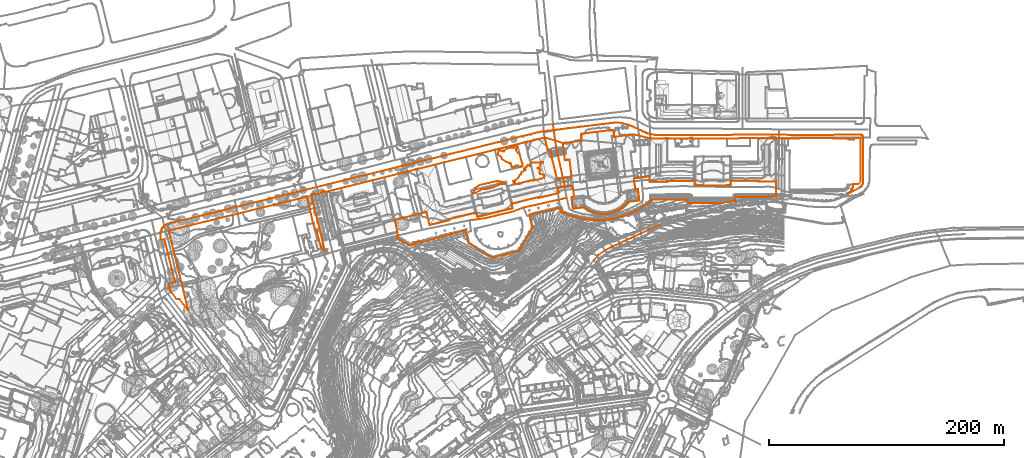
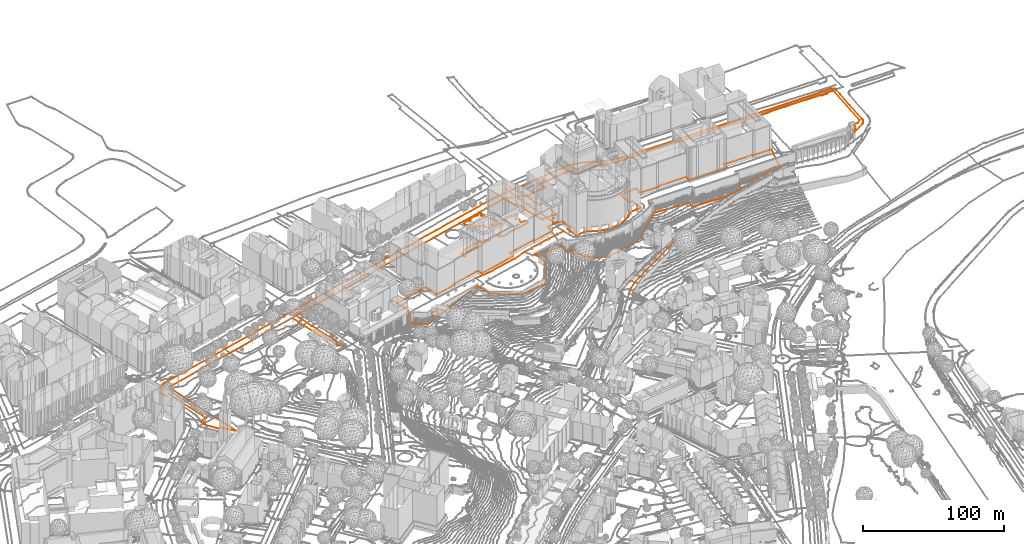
# Not in any storey, part 190 of 477: 7 civil elements, 3 geographic elements.
"""IFC4 model written with IfcOpenShell, lengths in metres."""

import ifcopenshell
import ifcopenshell.guid

model = None  # the IFC model being written
_history = None  # IfcOwnerHistory: only IFC2X3 demands one
_inside = {}  # id of a spatial element -> (the spatial element, [elements in it])
_under = {}  # id of a project, library or spatial element -> (it, [spatial elements below it])
_declared = {}  # id of a project -> (the project, [libraries it declares])
_typed = {}  # id of a type object -> (the type object, [elements of that type])
_made_of = {}  # id of a material, layer set ... -> (it, [elements and type objects made of it])


def new_model(schema):
    """Start an empty IFC model of exactly this schema.

    Asked for "IFC4X3", IfcOpenShell would pick the latest addendum, in which some entities
    have other attributes; the version numbers below select the first issue.
    IFC2X3 requires an IfcOwnerHistory on every rooted entity: one is made here for all.
    """
    global model, _history
    if schema == "IFC4X3":
        model = ifcopenshell.file(schema_version=(4, 3, 0, 0))
    else:
        model = ifcopenshell.file(schema=schema)
    _inside.clear()
    _under.clear()
    _declared.clear()
    _typed.clear()
    _made_of.clear()
    _history = None
    if model.schema == "IFC2X3":
        org = make("IfcOrganization", Name="unknown")
        user = make(
            "IfcPersonAndOrganization",
            ThePerson=make("IfcPerson", FamilyName="unknown"),
            TheOrganization=org,
        )
        app = make(
            "IfcApplication",
            ApplicationDeveloper=org,
            Version="unknown",
            ApplicationFullName="unknown",
            ApplicationIdentifier="unknown",
        )
        _history = make(
            "IfcOwnerHistory",
            OwningUser=user,
            OwningApplication=app,
            ChangeAction="ADDED",
            CreationDate=0,
        )
    return model


def make(cls, **values):
    """One entity of the class cls with the attributes given. An attribute that is None is left unset."""
    return model.create_entity(
        cls, **{name: value for name, value in values.items() if value is not None}
    )


def entity(cls, *values):
    """Any entity or typed value of the class cls, its attributes in the order of the schema. None: left unset."""
    e = model.create_entity(cls)
    for i, value in enumerate(values):
        if value is not None:
            e[i] = value
    return e


def rooted(cls, **values):
    """An entity with a GlobalId (a new one), such as an element, a storey or a relation."""
    return make(cls, GlobalId=ifcopenshell.guid.new(), OwnerHistory=_history, **values)


def si_unit(unit_type, name, prefix=None):
    """IfcSIUnit, for example si_unit("LENGTHUNIT", "METRE", prefix="MILLI")."""
    return make("IfcSIUnit", UnitType=unit_type, Prefix=prefix, Name=name)


def assignment(units):
    """IfcUnitAssignment: the units of a project."""
    return None if units is None else make("IfcUnitAssignment", Units=units)


def point(xyz):
    """IfcCartesianPoint."""
    return None if xyz is None else make("IfcCartesianPoint", Coordinates=xyz)


def direction(xyz):
    """IfcDirection."""
    return None if xyz is None else make("IfcDirection", DirectionRatios=xyz)


def frame(location, z_axis=None, x_axis=None):
    """IfcAxis2Placement3D, a coordinate frame: its origin and axes. An axis left out is left unset."""
    return make(
        "IfcAxis2Placement3D",
        Location=point(location),
        Axis=direction(z_axis),
        RefDirection=direction(x_axis),
    )


def origin_with_axes():
    """The frame at (0, 0, 0) with the z axis (0, 0, 1) and the x axis (1, 0, 0) written out."""
    return frame((0.0, 0.0, 0.0), z_axis=(0.0, 0.0, 1.0), x_axis=(1.0, 0.0, 0.0))


def place(relative_to, where):
    """IfcLocalPlacement: puts the frame where relative to a parent placement (None: the world)."""
    return make(
        "IfcLocalPlacement", PlacementRelTo=relative_to, RelativePlacement=where
    )


def context(
    kind, dimensions, precision=None, world=None, true_north=None, identifier=None
):
    """IfcGeometricRepresentationContext, for example the 3D "Model" context."""
    return make(
        "IfcGeometricRepresentationContext",
        ContextIdentifier=identifier,
        ContextType=kind,
        CoordinateSpaceDimension=dimensions,
        Precision=precision,
        WorldCoordinateSystem=world,
        TrueNorth=true_north,
    )


def subcontext(parent, identifier, kind, view, scale=None):
    """IfcGeometricRepresentationSubContext, for example "Body" below "Model"."""
    return make(
        "IfcGeometricRepresentationSubContext",
        ContextIdentifier=identifier,
        ContextType=kind,
        ParentContext=parent,
        TargetScale=scale,
        TargetView=view,
    )


def project(units=None, contexts=None):
    """IfcProject with its units and contexts."""
    return rooted(
        "IfcProject",
        Name="project",
        RepresentationContexts=contexts,
        UnitsInContext=assignment(units),
    )


def spatial(cls, under=None, at=None, **own):
    """A site, building, storey or space (cls), placed at a placement, below another one or the project."""
    s = rooted(cls, ObjectPlacement=at, **own)
    if under is not None:
        _under.setdefault(under.id(), (under, []))[1].append(s)
    return s


def shape(context_of_items, identifier, shape_type, items):
    """IfcShapeRepresentation: the items that make up one representation, for example the "Body"."""
    return make(
        "IfcShapeRepresentation",
        ContextOfItems=context_of_items,
        RepresentationIdentifier=identifier,
        RepresentationType=shape_type,
        Items=items,
    )


def made_of(thing, what):
    """Note that an element or type object is made of a material, layer set ...; save() writes the relation."""
    if what is not None:
        _made_of.setdefault(what.id(), (what, []))[1].append(thing)
    return thing


def element(
    cls,
    number,
    at=None,
    inside=None,
    cuts=None,
    type_object=None,
    material=None,
    context=None,
    identifier="Body",
    shape_type=None,
    held_by="IfcProductDefinitionShape",
    body=None,
    shapes=None,
    **own,
):
    """One element of the class cls, such as IfcWall. Its Tag is "e" and its number.

    at: its placement. inside: the storey or other place that contains it. cuts: it is an
    opening in that element (IfcRelVoidsElement). A single representation is given by context,
    identifier, shape_type and body (its items); several are given by shapes. held_by: the class
    of the entity that holds the representations. save() writes the other relations.
    """
    e = rooted(cls, Tag="e%d" % number, ObjectPlacement=at, **own)
    if body is not None:
        shapes = [shape(context, identifier, shape_type, body)]
    if shapes is not None:
        e.Representation = make(held_by, Representations=shapes)
    if inside is not None:
        _inside.setdefault(inside.id(), (inside, []))[1].append(e)
    if cuts is not None:
        rooted(
            "IfcRelVoidsElement", RelatingBuildingElement=cuts, RelatedOpeningElement=e
        )
    if type_object is not None:
        _typed.setdefault(type_object.id(), (type_object, []))[1].append(e)
    return made_of(e, material)


def aggregate(whole, parts):
    """IfcRelAggregates: a whole, such as a stair, and the parts it consists of."""
    return rooted("IfcRelAggregates", RelatingObject=whole, RelatedObjects=parts)


def save(model, path):
    """Write the relations noted so far, then the file.

    IfcRelAggregates (storeys below a building ...), IfcRelContainedInSpatialStructure (elements
    in a storey), IfcRelDefinesByType, IfcRelAssociatesMaterial and IfcRelDeclares: one each for
    every whole, place, type object, material and project.
    """
    for whole, parts in _under.values():
        aggregate(whole, parts)
    for where, things in _inside.values():
        rooted(
            "IfcRelContainedInSpatialStructure",
            RelatedElements=things,
            RelatingStructure=where,
        )
    for kind, things in _typed.values():
        rooted("IfcRelDefinesByType", RelatedObjects=things, RelatingType=kind)
    for what, things in _made_of.values():
        rooted("IfcRelAssociatesMaterial", RelatedObjects=things, RelatingMaterial=what)
    for by, libraries in _declared.values():
        rooted("IfcRelDeclares", RelatingContext=by, RelatedDefinitions=libraries)
    model.write(path)


model = new_model("IFC4")

# Units and contexts
model_context = context("Model", 3, precision=1e-05, world=origin_with_axes())
body_context = subcontext(model_context, "Body", "Model", "MODEL_VIEW")
ifc_project = project(units=[si_unit("AREAUNIT", "SQUARE_METRE"), si_unit("LENGTHUNIT", "METRE")], contexts=[model_context])

# Sites
site_1_placement = place(None, origin_with_axes())
site_1 = spatial("IfcSite", under=ifc_project, at=site_1_placement, Name="Topoexport Site")
site_2_placement = place(site_1_placement, origin_with_axes())
site_2 = spatial("IfcSite", under=site_1, at=site_2_placement, Name="TPX_ROADS")

# Civil elements
civil_element_1_placement = place(site_2_placement, frame((420.2107320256, 339.755732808, 539.338), z_axis=(0.0, 0.0, 1.0), x_axis=(1.0, 0.0, 0.0)))
element("IfcCivilElement", 1, at=civil_element_1_placement, inside=site_2, Name="Road 18", ObjectType="ROAD", context=body_context, shape_type="GeometricCurveSet", body=[
    entity("IfcGeometricCurveSet", [entity("IfcIndexedPolyCurve", entity("IfcCartesianPointList3D", [[0.0, 0.0, 0.0], [12.1909999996, 1.639999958, -0.145], [25.2870000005, 4.6979998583, -0.145], [36.4580000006, 7.359999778, -0.145], [45.9919999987, 10.9009996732, -0.145]]))]),
])
civil_element_2_placement = place(site_2_placement, frame((526.0887320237, 306.1137338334, 509.564), z_axis=(0.0, 0.0, 1.0), x_axis=(1.0, 0.0, 0.0)))
element("IfcCivilElement", 2, at=civil_element_2_placement, inside=site_2, Name="Road 169", ObjectType="ROAD", context=body_context, shape_type="GeometricCurveSet", body=[
    entity("IfcGeometricCurveSet", [entity("IfcIndexedPolyCurve", entity("IfcCartesianPointList3D", [[0.0, 0.0, 0.0], [3.7430000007, 4.0479998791, 0.464], [9.2790000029, 7.9819997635, 1.274], [14.5380000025, 10.8659996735, 2.052], [31.7190000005, 18.6479994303, 4.864], [48.018000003, 26.2849992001, 7.601], [55.3600000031, 29.9549990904, 8.53]]))]),
])
civil_element_3_placement = place(site_2_placement, frame((491.2227320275, 421.6907303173, 542.441), z_axis=(0.0, 0.0, 1.0), x_axis=(1.0, 0.0, 0.0)))
element("IfcCivilElement", 3, at=civil_element_3_placement, inside=site_2, Name="Road 195", ObjectType="ROAD", context=body_context, shape_type="GeometricCurveSet", body=[
    entity("IfcGeometricCurveSet", [entity("IfcIndexedPolyCurve", entity("IfcCartesianPointList3D", [[0.0, 0.0, 0.0], [3.0489999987, -21.5079993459, 0.583], [10.057, -52.3159984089, -1.647]]))]),
])
civil_element_4_placement = place(site_2_placement, frame((466.2027320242, 350.6567324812, 539.193), z_axis=(0.0, 0.0, 1.0), x_axis=(1.0, 0.0, 0.0)))
element("IfcCivilElement", 4, at=civil_element_4_placement, inside=site_2, Name="Road 196", ObjectType="ROAD", context=body_context, shape_type="GeometricCurveSet", body=[
    entity("IfcGeometricCurveSet", [entity("IfcIndexedPolyCurve", entity("IfcCartesianPointList3D", [[0.0, 0.0, 0.0], [20.6600000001, 4.6789998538, 0.399], [36.8000000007, 8.2509997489, 0.25]]))]),
])

# Site
site_3_placement = place(site_1_placement, origin_with_axes())
site_3 = spatial("IfcSite", under=site_1, at=site_3_placement, Name="TPX_ROADS_OUTLINES")

# Civil elements
civil_element_5_placement = place(site_3_placement, frame((356.3717320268, 340.1777160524, 539.8034432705), z_axis=(0.0, 0.0, 1.0), x_axis=(1.0, 0.0, 0.0)))
element("IfcCivilElement", 5, at=civil_element_5_placement, inside=site_3, Name="Roads Outline 40", ObjectType="ROAD", context=body_context, shape_type="GeometricCurveSet", body=[
    entity("IfcGeometricCurveSet", [entity("IfcIndexedPolyCurve", entity("IfcCartesianPointList3D", [[0.0, 0.0, 0.0], [0.29, 0.0690000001, -0.0042184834], [6.9819999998, 1.5620000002, 0.1705057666], [16.2790000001, 3.8290000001, 0.3185880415], [23.327, 5.676, 0.3885610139], [27.0669999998, 6.5970000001, 0.5996125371], [29.75, -4.3799999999, -0.1350726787], [46.7319999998, -0.172, -0.0433868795], [46.5589999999, 0.5549999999, 0.0797280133], [69.5009999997, 6.246, 0.2152045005], [70.449, 2.4399999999, -0.1224749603], [100.5439999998, 9.8689999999, -0.1316823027], [99.605, 13.6699999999, 0.187884], [122.5839999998, 19.338, 0.091593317], [122.764, 18.6100000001, -0.0641535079], [139.7259999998, 22.7930000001, -0.1339960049], [139.5009999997, 23.7110000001, 0.1063289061], [139.4159999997, 24.061, 0.2130162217], [139.327, 24.4240000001, 0.3167004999], [139.2379999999, 24.794, 0.4039567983], [139.1299999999, 25.159, 0.4903752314], [139.0430000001, 25.5220000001, 0.5762104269], [138.5869999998, 27.3940000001, 0.9897647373], [139.9610000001, 27.5590000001, 0.9447548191], [141.355, 27.726, 0.9205382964], [141.3399999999, 27.871, 0.9563467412], [141.8369999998, 27.9310000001, 0.9474740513], [147.9899999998, 28.6459999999, 0.900108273], [148.4879999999, 28.7069999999, 0.8357633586], [148.5099999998, 28.557, 0.7960365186], [149.906, 28.7140000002, 0.7208485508], [151.6839999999, 28.929, 0.5976125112], [151.8879999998, 27.2520000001, 0.5467767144], [151.932, 26.8900000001, 0.529833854], [151.9789999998, 26.5250000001, 0.5105239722], [152.0219999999, 26.159, 0.3626587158], [152.068, 25.8, 0.2082629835], [152.1099999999, 25.4270000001, 0.0628094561], [152.1469999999, 25.1430000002, -0.0048300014], [152.7790000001, 20.2660000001, -0.1684757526], [152.8619999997, 19.6270000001, -0.1759767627], [150.5839999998, 19.327, -0.2242654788], [150.9399999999, 16.398, -0.1919059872], [151.398, 12.4610000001, -0.2216388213], [151.7549999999, 9.5350000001, -0.299766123], [154.6869999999, 9.8940000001, -0.3003341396], [159.074, 10.4340000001, -0.3699000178], [161.1999999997, 10.693, -0.3451689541], [162.145, 9.98, -0.3580404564], [163.122, 9.3100000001, -0.362651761], [164.1809999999, 8.655, -0.3569356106], [165.27, 8.0520000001, -0.3671243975], [166.3870000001, 7.5020000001, -0.3661074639], [167.5290000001, 7.007, -0.3597043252], [168.5060000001, 6.6310000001, -0.3517693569], [169.4959999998, 6.2930000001, -0.3392377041], [170.4989999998, 5.993, -0.3280887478], [171.7059999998, 5.686, -0.3197233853], [172.926, 5.4340000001, -0.3139725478], [174.156, 5.2380000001, -0.3074577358], [175.3929999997, 5.0970000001, -0.3014607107], [176.4399999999, 5.0250000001, -0.2968729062], [177.4890000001, 4.9950000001, -0.2927378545], [178.5379999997, 5.0050000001, -0.2890853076], [179.7779999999, 5.067, -0.2854481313], [181.0129999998, 5.186, -0.2829871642], [182.2420000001, 5.361, -0.2820403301], [183.4619999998, 5.5919999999, -0.279340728], [184.48, 5.8370000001, -0.2788594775], [185.4869999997, 6.1230000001, -0.2772401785], [186.4819999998, 6.4510000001, -0.2844700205], [187.6409999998, 6.8800000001, -0.2953668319], [188.781, 7.3589999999, -0.2987625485], [189.898, 7.8859999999, -0.295911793], [190.9920000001, 8.4620000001, -0.290325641], [191.8969999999, 8.9950000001, -0.3099575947], [192.781, 9.564, -0.3267391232], [193.642, 10.166, -0.3307892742], [194.628, 10.919, -0.3421473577], [195.5779999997, 11.716, -0.3493277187], [196.4909999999, 12.5560000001, -0.3563774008], [197.3640000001, 13.4370000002, -0.3441022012], [198.1629999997, 14.3190000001, -0.3195261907], [198.9240000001, 15.2339999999, -0.3143982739], [201.0279999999, 15.5220000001, -0.3506630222], [205.4479999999, 16.054, -0.328956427], [208.392, 16.412, -0.2934545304], [208.0379999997, 19.3600000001, -0.2968425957], [207.5609999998, 23.273, -0.3063928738], [207.1979999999, 26.2140000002, -0.2992738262], [204.9359999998, 25.933, -0.236649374], [204.855, 26.588, -0.2291996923], [204.2439999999, 31.503, -0.1541266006], [204.2069999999, 31.8, -0.1570433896], [204.1609999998, 32.1570000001, -0.1613431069], [204.1189999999, 32.504, -0.162985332], [204.074, 32.861, -0.057044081], [204.0290000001, 33.2220000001, 0.0489847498], [203.983, 33.5900000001, 0.1619566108], [203.7790000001, 35.3090000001, 0.6725892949], [205.5800000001, 35.5260000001, 0.7911480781], [206.96, 35.6969999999, 1.0186023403], [206.9479999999, 35.838, 1.0815914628], [207.4449999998, 35.899, 1.0818075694], [213.5989999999, 36.649, 1.0107659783], [214.0899999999, 36.706, 0.9773762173], [214.1119999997, 36.5549999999, 0.9481286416], [215.5019999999, 36.7239999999, 0.8876839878], [217.1359999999, 36.919, 0.823007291], [217.1359999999, 36.7890000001, 0.798798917], [217.0860000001, 36.7890000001, 0.8018872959], [217.0869999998, 36.7380000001, 0.792328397], [217.1359999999, 35.0, 0.4237031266], [217.142, 34.6640000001, 0.3326564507], [217.145, 34.3020000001, 0.2149041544], [217.1459999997, 33.9880000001, 0.0972858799], [217.0499999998, 33.9890000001, 0.0951107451], [217.0449999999, 33.895, 0.0598787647], [217.0460000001, 33.5209999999, -0.0797505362], [217.0449999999, 33.1610000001, -0.1555758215], [217.0469999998, 32.446, -0.2876816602], [218.5869999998, 32.449, -0.2312131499], [218.591, 32.544, -0.2207848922], [230.7029999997, 32.557, -0.2436045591], [230.7050000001, 32.46, -0.2473396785], [232.2480000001, 32.4669999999, -0.2567815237], [232.2459999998, 33.176, -0.2313845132], [255.6310000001, 33.2280000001, -0.0487951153], [255.6269999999, 30.851, -0.277012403], [255.5669999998, 30.852, -0.2777233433], [255.5619999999, 29.3319999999, -0.3332891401], [256.0789999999, 29.321, -0.335389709], [256.0809999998, 29.223, -0.3389092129], [257.5860000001, 29.2210000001, -0.3450202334], [257.5929999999, 29.3230000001, -0.34399811], [261.4049999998, 29.331, -0.3672315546], [261.4049999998, 29.2320000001, -0.3688629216], [262.9509999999, 29.2239999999, -0.3554853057], [262.9499999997, 29.318, -0.3551631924], [278.4699999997, 29.348, -0.3513547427], [278.4759999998, 29.2420000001, -0.3552497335], [280.1289999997, 29.2709999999, -0.359948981], [280.1319999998, 29.372, -0.3572161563], [284.054, 29.4080000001, -0.3515287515], [284.0350000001, 29.2590000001, -0.3570958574], [285.6289999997, 29.3049999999, -0.347413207], [285.6209999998, 29.453, -0.3401776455], [286.2169999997, 29.4550000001, -0.3443406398], [286.219, 30.98, -0.2459768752], [286.108, 30.9990000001, -0.2425817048], [286.1009999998, 33.2720000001, -0.098485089], [290.4469999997, 33.3160000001, -0.2173556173], [309.5389999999, 33.263, -0.1937639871], [309.5499999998, 32.5620000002, -0.2290751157], [311.071, 32.5590000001, -0.2336708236], [311.0699999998, 32.659, -0.2294261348], [323.2039999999, 32.665, -0.2146497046], [323.2039999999, 32.575, -0.2201869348], [324.7450000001, 32.5760000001, -0.2233062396], [324.6699999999, 19.6699999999, -8.2563297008], [306.1329999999, 19.5109999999, -10.2628021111], [290.3419999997, 19.3759999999, -10.704229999], [290.3569999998, 16.1610000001, -12.2446412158], [282.7379999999, 15.145, -13.1031893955], [278.8279999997, 14.095, -13.5120260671], [249.4010000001, 14.1030000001, -12.5332437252], [249.5009999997, 17.3730000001, -11.1957044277], [218.8330000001, 17.3810000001, -9.2388013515], [218.8530000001, 16.26, -9.3863848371], [217.094, 14.8500000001, -10.40129758], [216.9839999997, 15.01, -10.3794431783], [215.3429999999, 13.7790000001, -11.2378680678], [213.6669999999, 12.5960000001, -12.0344242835], [211.9559999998, 11.4620000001, -12.8971274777], [210.2140000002, 10.379, -13.621391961], [207.5499999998, 8.895, -14.2030003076], [204.8629999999, 7.4510000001, -15.3437380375], [202.1549999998, 6.048, -17.6339071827], [202.2050000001, 5.9280000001, -17.7922515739], [200.0260000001, 5.0630000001, -18.3463016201], [197.827, 4.2490000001, -18.5796754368], [195.6099999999, 3.486, -19.037805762], [193.3759999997, 2.7750000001, -18.674924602], [191.1259999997, 2.1170000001, -19.293698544], [189.1889999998, 1.6270000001, -18.7613563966], [187.2399999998, 1.193, -18.3295982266], [185.2779999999, 0.8149999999, -17.5251704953], [183.307, 0.4920000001, -18.7604854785], [181.327, 0.226, -19.490865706], [180.7930000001, 0.162, -19.434318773], [180.2590000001, 0.1030000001, -19.3359944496], [178.2560000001, -0.0819999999, -19.2260351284], [176.2489999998, -0.21, -19.3392255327], [174.2390000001, -0.28, -19.3943254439], [172.2280000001, -0.2930000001, -19.3123133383], [170.2169999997, -0.2479999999, -18.0649591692], [168.2080000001, -0.145, -18.6480719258], [165.898, 0.085, -18.8652315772], [163.594, 0.368, -18.3250548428], [161.2969999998, 0.7050000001, -17.0283781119], [159.0090000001, 1.095, -17.0714699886], [159.0189999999, 1.2250000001, -17.0101942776], [157.2310000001, 1.5830000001, -15.8175602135], [155.4559999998, 2.0060000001, -14.7976171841], [153.699, 2.493, -15.0499056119], [151.96, 3.044, -13.3726408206], [149.8939999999, 3.736, -11.7308010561], [147.8479999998, 4.483, -8.7259306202], [145.8229999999, 5.2860000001, -8.0580580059], [143.8199999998, 6.1440000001, -8.4634626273], [143.75, 5.9640000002, -9.0700270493], [141.71, 6.909, -8.2205326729], [141.0, 10.1240000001, -6.0185133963], [128.7719999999, 7.433, -4.0511518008], [117.1319999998, 4.9210000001, -0.5622877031], [114.9129999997, 4.442, -0.4968899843], [117.733, -6.7290000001, -2.0704846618], [108.7009999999, -21.55, -4.1340175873], [105.6340000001, -26.581, -4.5272230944], [83.0260000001, -32.213, -1.8784042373], [63.173, -20.173, -1.0834347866], [61.2280000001, -12.8829999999, -0.5436902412], [60.2579999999, -8.933, -0.431593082], [22.8670000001, -19.2279999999, -7.3313447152], [22.0329999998, -18.206, -3.0532843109], [16.3629999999, -19.473, -2.298861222], [17.395, -20.7339999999, -7.5569362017], [12.5639999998, -22.064, -9.444249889], [2.625, -16.1639999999, -8.4527385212], [3.443, -15.838, -6.0755890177], [2.3479999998, -11.2490000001, -0.5624291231], [2.2579999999, -10.8599999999, -0.5448043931], [2.6409999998, -10.764, -0.5021145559], [2.483, -10.1199999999, -0.4835185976], [0.0, 0.0, 0.0]]))]),
])
civil_element_6_placement = place(site_3_placement, frame((156.8817320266, 326.9607160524, 539.7072372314), z_axis=(0.0, 0.0, 1.0), x_axis=(1.0, 0.0, 0.0)))
element("IfcCivilElement", 6, at=civil_element_6_placement, inside=site_3, Name="Roads Outline 42", ObjectType="ROAD", context=body_context, shape_type="GeometricCurveSet", body=[
    entity("IfcGeometricCurveSet", [entity("IfcIndexedPolyCurve", entity("IfcCartesianPointList3D", [[0.1750000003, 2.2960000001, 0.0485044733], [0.3330000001, 3.044, 0.0515671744], [0.5490000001, 3.7779999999, 0.0671288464], [0.8230000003, 4.4920000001, 0.0785144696], [1.1529999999, 5.182, 0.0952973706], [1.5360000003, 5.844, 0.1126376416], [1.9710000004, 6.473, 0.1425468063], [2.4540000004, 7.0659999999, 0.1541067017], [3.054, 7.6869999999, 0.176592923], [3.7080000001, 8.2509999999, 0.199993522], [4.409, 8.754, 0.2125746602], [5.1529999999, 9.193, 0.2284054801], [5.9330000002, 9.5630000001, 0.2518685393], [6.7430000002, 9.861, 0.2899580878], [7.577, 10.0859999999, 0.3203938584], [66.7180000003, 24.72, 0.8284680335], [113.1350000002, 36.1899999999, 1.2895333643], [122.4950000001, 38.4890000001, 1.3829624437], [123.3060000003, 38.6899999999, 1.4122152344], [143.398, 43.6639999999, 1.4925942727], [209.1910000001, 59.9679999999, 2.1919093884], [233.551, 66.0020000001, 2.5010001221], [248.014, 69.584, 2.6704536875], [255.591, 71.4439999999, 2.7868564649], [266.2570000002, 74.1029999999, 2.7853008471], [277.5250000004, 76.8840000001, 2.8809123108], [287.4590000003, 79.3289999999, 2.9618540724], [299.1690000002, 82.2560000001, 3.0052550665], [310.9980000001, 85.1850000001, 2.9987780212], [317.7400000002, 86.8400000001, 3.0418129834], [318.8800000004, 87.1189999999, 3.0138842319], [320.7990000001, 87.547, 2.9146880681], [322.7250000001, 87.9439999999, 3.0202051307], [324.5240000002, 88.291, 3.0321898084], [326.3290000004, 88.601, 3.0335543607], [328.6770000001, 88.9509999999, 3.0412556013], [331.034, 89.24, 3.029096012], [336.1170000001, 89.821, 3.0306603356], [347.173, 91.182, 2.9961238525], [357.5890000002, 92.4450000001, 3.1103005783], [367.2050000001, 93.629, 3.2077760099], [376.1130000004, 94.727, 3.1918535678], [384.8470000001, 95.754, 3.0450704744], [386.2230000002, 95.9110000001, 2.9926435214], [387.605, 95.9879999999, 2.9782345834], [388.9900000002, 95.986, 2.9760345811], [390.372, 95.9040000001, 2.9894702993], [391.8060000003, 95.6950000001, 3.0479887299], [393.233, 95.439, 3.0612541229], [394.6500000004, 95.1359999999, 2.9954281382], [396.2050000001, 94.7490000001, 3.0360772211], [397.7439999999, 94.304, 3.0422942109], [399.2650000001, 93.801, 2.9347566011], [400.872, 93.2, 3.005200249], [402.4540000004, 92.5360000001, 3.0491715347], [404.0079999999, 91.8089999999, 3.1205027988], [408.7790000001, 89.459, 3.124468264], [410.0449999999, 88.8529999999, 3.1329684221], [411.3280000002, 88.2819999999, 3.1451777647], [412.6260000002, 87.7490000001, 3.2034068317], [414.02, 87.2209999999, 3.2080056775], [415.4300000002, 86.7350000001, 3.1457432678], [416.8530000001, 86.291, 3.0538598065], [417.9000000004, 86.075, 3.0718899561], [418.9530000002, 85.8929999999, 3.0742294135], [420.1850000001, 85.726, 3.1019338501], [421.4220000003, 85.6059999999, 3.111194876], [422.6630000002, 85.534, 3.1080641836], [423.906, 85.5109999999, 3.0881493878], [450.426, 85.5349999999, 3.0187671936], [502.5460000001, 85.648, 2.7985166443], [526.926, 85.6839999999, 2.7691709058], [552.1660000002, 85.419, 2.7354095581], [588.9560000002, 85.757, 2.7214532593], [596.1460000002, 85.7520000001, 2.7218515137], [596.5260000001, 85.702, 2.7254776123], [596.8940000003, 85.5959999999, 2.7291977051], [597.2430000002, 85.4369999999, 2.7347778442], [597.5640000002, 85.2279999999, 2.7421127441], [597.8510000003, 84.9739999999, 2.7510269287], [598.1300000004, 84.632, 2.7602016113], [598.3470000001, 84.247, 2.7597551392], [598.4950000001, 83.831, 2.7592727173], [598.5700000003, 83.3959999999, 2.7524246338], [598.5760000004, 83.2949999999, 2.750267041], [598.5790000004, 83.193, 2.7480880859], [598.5810000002, 77.037, 2.2872031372], [598.5550000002, 63.797, 1.1581526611], [598.5390000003, 45.909, -0.2909738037], [598.5010000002, 45.3089999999, -0.2738467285], [598.4050000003, 44.7150000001, -0.249555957], [598.2510000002, 44.1340000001, -0.2654178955], [598.0410000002, 43.571, -0.2772615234], [597.7760000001, 43.031, -0.2773274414], [597.4170000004, 42.46, -0.2880325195], [596.997, 41.932, -0.3105588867], [596.5210000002, 41.4539999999, -0.3193583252], [595.9950000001, 41.0319999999, -0.3182507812], [595.4250000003, 40.6699999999, -0.317456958], [585.6410000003, 35.362, -1.2079440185], [586.3170000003, 35.7960000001, -0.5170959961], [586.952, 36.2889999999, -0.5243477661], [587.54, 36.8370000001, -0.5229982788], [588.077, 37.4350000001, -0.487484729], [588.5590000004, 38.078, -0.4467606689], [588.9810000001, 38.7619999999, -0.4003876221], [589.341, 39.48, -0.3385092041], [589.6350000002, 40.2279999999, -0.3180234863], [589.861, 40.9990000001, -0.3181641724], [590.0180000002, 41.787, -0.316745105], [590.1040000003, 42.5870000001, -0.2826142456], [590.1180000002, 43.3899999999, -0.2772836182], [590.1150000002, 43.47, -0.2772738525], [593.9820000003, 43.4739999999, -0.2772733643], [596.4890000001, 45.966, -0.2911825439], [596.4580000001, 82.8810000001, 2.7414230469], [590.773, 82.871, 2.7412094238], [590.7740000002, 81.7409999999, 2.680992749], [586.0860000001, 81.7339999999, 2.6805825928], [586.0530000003, 81.952, 2.6933560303], [585.9540000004, 82.149, 2.704898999], [585.7990000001, 82.3049999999, 2.714039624], [585.6030000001, 82.406, 2.7199575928], [585.3850000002, 82.4399999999, 2.7219497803], [573.1210000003, 82.415, 2.7204849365], [573.1200000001, 82.865, 2.74108125], [566.6520000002, 82.845, 2.7406540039], [560.7010000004, 82.8319999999, 2.7403762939], [559.7060000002, 82.8219999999, 2.7401626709], [557.213, 82.8230000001, 2.7401840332], [556.2170000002, 82.817, 2.7400558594], [550.2609999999, 82.8060000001, 2.739820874], [543.8100000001, 82.8119999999, 2.7399490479], [543.8130000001, 82.3629999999, 2.7174380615], [536.1750000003, 82.3100000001, 2.7143325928], [534.7600000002, 82.3289999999, 2.715445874], [533.216, 82.379, 2.7183755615], [532.733, 82.379, 2.7183755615], [529.3630000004, 82.371, 2.7125010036], [524.1830000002, 82.3600000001, 2.4240464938], [524.1830000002, 82.828, 2.657912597], [522.6800000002, 82.8300000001, 1.4145934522], [522.673, 82.686, 1.3451538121], [510.5100000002, 82.662, 2.849692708], [510.5010000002, 82.7930000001, 2.8478136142], [510.5, 82.8149999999, 2.8476621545], [509.0130000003, 82.811, 2.8466363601], [509.0130000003, 82.6610000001, 2.8467279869], [502.162, 82.6499999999, 2.9231305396], [482.48, 82.618, 2.9131530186], [458.2239999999, 82.5789999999, 2.9373800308], [453.551, 82.571, 3.1921882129], [438.5240000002, 82.5460000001, 3.2113473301], [438.4050000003, 82.5460000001, 3.2080552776], [431.6570000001, 82.5360000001, 3.1201495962], [431.6570000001, 82.6340000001, 3.1206908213], [431.656, 82.686, 3.1210598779], [430.1610000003, 82.682, 3.1478209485], [430.159, 82.537, 3.1422427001], [418.0090000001, 82.534, 3.2086734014], [418.0060000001, 82.675, 3.2081047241], [416.8970000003, 82.6680000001, 3.210356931], [416.503, 82.675, 3.2118731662], [402.8000000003, 85.996, 3.2004066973], [400.8119999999, 85.75, 3.2782705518], [400.821, 85.6540000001, 3.2836435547], [386.4360000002, 83.8929999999, 3.4078238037], [386.1520000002, 86.2719999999, 3.4210038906], [386.4380000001, 86.3089999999, 3.4163906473], [386.0780000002, 89.29, 3.2703598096], [385.4880000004, 89.2220000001, 3.2749405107], [385.4210000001, 89.8089999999, 3.2272761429], [382.9880000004, 89.5009999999, 3.2990924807], [382.9980000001, 89.4029999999, 3.3040709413], [381.3130000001, 89.2, 3.3506790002], [381.2890000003, 89.2919999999, 3.3433020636], [362.7090000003, 87.0209999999, 3.3513704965], [362.7120000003, 86.916, 3.3492847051], [361.0360000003, 86.716, 3.3355788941], [361.0160000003, 86.807, 3.3327112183], [358.588, 86.5109999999, 3.2604840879], [358.6520000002, 85.9280000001, 3.2851663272], [358.0730000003, 85.8470000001, 3.263213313], [358.449, 82.878, 3.2996867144], [358.7380000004, 82.902, 3.3027547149], [359.04, 80.5209999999, 3.2810913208], [344.6510000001, 78.773, 3.3317557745], [344.639, 78.8699999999, 3.3275769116], [342.6610000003, 78.6229999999, 3.2578642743], [327.3149999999, 83.335, 3.1523758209], [325.5700000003, 82.9099999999, 3.2011068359], [325.5830000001, 82.8429999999, 3.1996104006], [314.7370000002, 80.159, 3.2568167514], [312.4720000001, 79.5989999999, 3.2406062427], [312.4540000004, 79.669, 3.2407707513], [310.7080000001, 79.237, 3.2041613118], [302.7770000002, 77.277, 3.2327267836], [284.8530000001, 72.8470000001, 3.1600154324], [260.3020000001, 66.7790000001, 3.057766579], [242.3119999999, 62.3330000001, 2.8777429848], [234.358, 60.3589999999, 2.7017402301], [232.5930000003, 59.9310000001, 2.6912968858], [232.605, 59.868, 2.690455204], [219.5010000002, 56.6029999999, 2.5558385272], [219.4820000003, 56.6699999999, 2.5565875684], [217.7409999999, 56.237, 2.4844815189], [190.6340000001, 49.3640000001, 2.0069677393], [180.6950000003, 46.8759999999, 1.8213783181], [154.0490000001, 40.2960000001, 1.7022847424], [144.0819999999, 37.8189999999, 1.5060660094], [141.0360000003, 37.1259999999, 1.379625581], [139.8330000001, 36.8149999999, 1.4795032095], [139.5530000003, 37.8300000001, 1.5314758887], [137.0810000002, 37.176, 1.4789871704], [137.3230000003, 36.166, 1.4348878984], [131.7750000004, 34.73, 1.4761719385], [131.7620000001, 34.726, 1.4754655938], [131.4930000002, 35.8200000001, 1.4582819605], [128.8859999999, 35.1680000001, 1.4427338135], [129.1690000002, 34.0560000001, 1.4178246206], [128.6610000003, 33.9239999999, 1.4117594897], [132.5040000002, 18.297, 0.8796084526], [133.605, 13.8219999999, 0.7028618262], [137.9760000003, -3.953, 0.2206425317], [140.0470000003, -12.3740000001, 0.2906108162], [139.2740000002, -12.568, 0.3378671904], [139.2570000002, -12.5, 0.3386387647], [138.8000000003, -12.615, 0.3494735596], [138.548, -12.6799999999, 0.3586116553], [137.281, -11.216, 0.3205939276], [136.932, -11.3030000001, 0.375245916], [132.98, 4.753, 0.7198120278], [131.7180000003, 4.442, 0.7385104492], [130.2460000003, 10.425, 0.8883506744], [130.1000000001, 10.389, 0.8923116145], [127.8140000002, 20.037, 1.075664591], [126.841, 24.142, 1.1923853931], [124.7630000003, 32.916, 1.5162328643], [69.9650000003, 19.4550000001, 0.8630218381], [61.9730000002, 17.4909999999, 0.8239106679], [7.1070000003, 4.0060000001, 0.2919409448], [10.9160000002, -11.507, -0.5882248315], [12.0840000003, -16.2620000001, -0.5600948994], [18.111, -40.8030000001, -1.8038295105], [18.804, -43.621, -1.7887757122], [23.8300000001, -64.0870000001, -2.2528354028], [16.267, -54.2290000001, -2.3130788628], [13.875, -54.1570000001, -2.2850000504], [9.1140000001, -48.05, -2.0144521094], [8.7069999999, -47.368, -2.0116766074], [8.3540000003, -46.6570000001, -1.996013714], [8.054, -45.9210000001, -1.9673875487], [7.8119999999, -45.165, -1.9129987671], [7.6270000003, -44.3929999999, -1.7985021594], [7.5120000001, -43.6980000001, -1.7692143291], [7.4440000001, -42.997, -1.7355224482], [7.423, -42.2930000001, -1.6808399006], [7.449, -41.5889999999, -1.646709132], [7.48, -41.2420000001, -1.6333796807], [7.5220000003, -40.8959999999, -1.6422572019], [7.8620000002, -40.814, -1.6474221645], [12.4950000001, -39.699, -1.771726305], [3.5210000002, -3.1200000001, -0.1347664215], [1.0160000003, -3.72, -0.0808176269], [0.7060000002, -3.794, -0.0949880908], [0.3340000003, -2.2779999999, -0.0410253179], [0.1670000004, -1.5279999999, -0.0066069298], [0.0550000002, -0.767, -0.008987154], [0.0, 0.0, 0.0], [0.0020000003, 0.7690000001, 0.0336313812], [0.0600000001, 1.5360000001, 0.0458359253], [0.1750000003, 2.2960000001, 0.0485044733]]))]),
])
civil_element_7_placement = place(site_3_placement, frame((484.1967320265, 410.2957160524, 542.8596130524), z_axis=(0.0, 0.0, 1.0), x_axis=(1.0, 0.0, 0.0)))
element("IfcCivilElement", 7, at=civil_element_7_placement, inside=site_3, Name="Roads Outline 56", ObjectType="ROAD", context=body_context, shape_type="GeometricCurveSet", body=[
    entity("IfcGeometricCurveSet", [entity("IfcIndexedPolyCurve", entity("IfcCartesianPointList3D", [[0.0, 0.0, 0.0], [15.3460000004, -4.7120000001, 0.1054884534], [15.5870000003, -6.6909999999, 0.1853239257], [15.6870000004, -6.6869999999, 0.1938361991], [16.0470000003, -9.6129999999, 0.1785597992], [16.6320000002, -14.4550000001, 0.1042999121], [16.9910000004, -17.406, 0.0655459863], [16.8940000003, -17.419, 0.0644288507], [17.1320000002, -19.4029999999, -0.0382874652], [19.1010000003, -19.152, 0.00526612], [19.0660000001, -18.8629999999, 0.0035841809], [21.108, -18.6140000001, -0.030503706], [22.5890000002, -30.7709999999, -0.6130489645], [22.9760000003, -33.942, -1.1761575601], [22.5870000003, -33.9939999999, -1.15188746], [22.2620000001, -34.0360000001, -1.1304041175], [21.9420000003, -34.0759999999, -1.0990043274], [21.6260000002, -34.115, -1.0019407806], [21.3540000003, -34.1669999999, -0.9207460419], [21.3320000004, -34.027, -0.894366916], [20.9940000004, -34.0789999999, -0.7918363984], [20.9780000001, -33.9539999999, -0.7699688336], [19.9130000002, -34.064, -0.4808700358], [19.9200000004, -34.1710000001, -0.5016399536], [19.3310000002, -34.23, -0.3918727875], [13.0990000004, -34.9790000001, -0.4259699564], [12.5050000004, -35.0630000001, -0.5154741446], [12.4880000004, -34.9709999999, -0.498187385], [11.4010000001, -35.111, -0.5621653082], [11.4040000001, -35.2050000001, -0.5810049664], [10.6100000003, -35.297, -0.5597468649], [10.2520000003, -33.8370000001, -0.2638973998], [10.1770000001, -33.8470000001, -0.2630383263], [9.3500000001, -30.497, -0.1750668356], [9.4190000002, -30.4709999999, -0.1767340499], [9.0490000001, -28.9569999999, -0.1631770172], [8.9720000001, -28.977, -0.1609391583], [6.1140000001, -17.4309999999, 0.0653019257], [6.1810000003, -17.412, 0.0652612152], [5.9790000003, -16.585, 0.0750989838], [5.8080000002, -15.8999999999, 0.0832612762], [5.7400000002, -15.9169999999, 0.0833276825], [4.909, -12.5549999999, 0.1233671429], [4.9760000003, -12.5379999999, 0.1232873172], [4.8120000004, -11.871, 0.1307973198], [4.5480000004, -10.804, 0.1512780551], [2.7260000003, -11.2339999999, 0.1476590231], [0.3770000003, -1.763, 0.047412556], [0.443, -1.7420000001, 0.0440718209], [0.0, 0.0, 0.0]]))]),
])

# Site
site_4_placement = place(site_1_placement, origin_with_axes())
site_4 = spatial("IfcSite", under=site_1, at=site_4_placement, Name="TPX_CONTOUR_LINES")

# Geographic elements
geographic_element_1_placement = place(site_4_placement, frame((444.2582454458, 396.1707160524, 543.0), z_axis=(0.0, 0.0, 1.0), x_axis=(1.0, 0.0, 0.0)))
element("IfcGeographicElement", 8, at=geographic_element_1_placement, inside=site_4, Name="Contour Line 543.0 m", PredefinedType="NOTDEFINED", context=body_context, shape_type="GeometricCurveSet", body=[
    entity("IfcGeometricCurveSet", [entity("IfcIndexedPolyCurve", entity("IfcCartesianPointList3D", [[17.5372285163, -11.0, 0.0], [15.4194865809, -9.8698501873, 0.0], [14.4194865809, -10.7902757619, 0.0], [12.4194865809, -11.1591448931, 0.0], [11.997439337, -11.0, 0.0], [11.7995945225, -10.0, 0.0], [10.7956333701, -9.0, 0.0], [11.2474711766, -8.0, 0.0], [10.4194865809, -7.501930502, 0.0], [9.4194865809, -7.4710982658, 0.0], [7.4194865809, -6.7706766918, 0.0], [3.4194865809, -4.2765957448, 0.0], [3.3792855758, -3.0, 0.0], [2.4194865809, -1.9585253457, 0.0], [0.4194865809, -0.8518957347, 0.0], [0.0, 0.0, 0.0], [0.4194865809, 2.0784313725, 0.0], [1.1561636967, 3.0, 0.0], [2.0510655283, 3.0, 0.0], [3.4194865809, 2.4381720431, 0.0], [4.4194865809, 3.1355735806, 0.0], [5.4194865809, 2.1212814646, 0.0], [5.7797117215, 3.0, 0.0], [7.4194865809, 4.7162055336, 0.0], [8.4194865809, 4.9032038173, 0.0], [9.4194865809, 5.6108654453, 0.0], [10.4194865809, 5.173998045, 0.0], [12.4194865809, 5.6962663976, 0.0], [13.4194865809, 5.2758169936, 0.0], [13.8283426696, 6.0, 0.0], [15.4194865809, 7.0625, 0.0], [16.4194865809, 6.6164383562, 0.0], [16.5913404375, 5.0, 0.0], [16.4194865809, 4.6947115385, 0.0], [15.4194865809, 4.4400826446, 0.0], [15.4194865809, 3.4196185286, 0.0], [17.3204766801, 1.0, 0.0], [18.5777275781, 0.0, 0.0], [20.1197449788, -6.0, 0.0], [21.1357359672, -8.0, 0.0], [20.8919598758, -9.0, 0.0], [20.1802733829, -10.0, 0.0], [19.4194865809, -10.4334779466, 0.0], [18.4194865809, -10.7030401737, 0.0], [17.4194865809, -9.8688293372, 0.0], [16.9734434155, -10.0, 0.0], [17.5372285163, -11.0, 0.0]]))]),
])
geographic_element_2_placement = place(site_4_placement, frame((457.245299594, 373.1707160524, 543.0), z_axis=(0.0, 0.0, 1.0), x_axis=(1.0, 0.0, 0.0)))
element("IfcGeographicElement", 9, at=geographic_element_2_placement, inside=site_4, Name="Contour Line 543.0 m", PredefinedType="NOTDEFINED", context=body_context, shape_type="GeometricCurveSet", body=[
    entity("IfcGeometricCurveSet", [entity("IfcIndexedPolyCurve", entity("IfcCartesianPointList3D", [[6.3195693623, -2.0, 0.0], [5.4324324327, -2.3260140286, 0.0], [1.4324324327, -2.7009523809, 0.0], [0.4510990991, -2.0, 0.0], [1.7997793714, -1.0, 0.0], [1.4324324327, -0.500045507, 0.0], [0.0, 0.0, 0.0], [2.4324324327, 1.19851577, 0.0], [4.4324324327, 2.7114285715, 0.0], [5.5225963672, 5.0, 0.0], [6.6688665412, 6.0, 0.0], [7.4324324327, 7.6130653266, 0.0], [9.6766184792, 9.0, 0.0], [9.2832881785, 10.0, 0.0], [9.4324324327, 10.5922330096, 0.0], [9.6324324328, 10.0, 0.0], [10.4324324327, 9.5158730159, 0.0], [10.7608308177, 10.0, 0.0], [10.4324324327, 12.0914634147, 0.0], [11.4324324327, 12.1184210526, 0.0], [12.4324324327, 13.8415841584, 0.0], [14.4324324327, 12.7822580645, 0.0], [14.5679795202, 14.0, 0.0], [15.4324324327, 15.7621483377, 0.0], [20.4324324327, 15.8601895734, 0.0], [22.4324324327, 15.6041275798, 0.0], [24.4324324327, 16.381091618, 0.0], [25.4148444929, 16.0, 0.0], [24.0108638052, 15.0, 0.0], [23.2077133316, 14.0, 0.0], [22.4504180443, 12.0, 0.0], [20.9452529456, 11.0, 0.0], [21.4324324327, 10.5249999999, 0.0], [23.3590379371, 10.0, 0.0], [23.5794912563, 9.0, 0.0], [22.6314496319, 8.0, 0.0], [22.4324324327, 6.698275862, 0.0], [22.8726498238, 6.0, 0.0], [25.4324324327, 5.5471153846, 0.0], [26.3591425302, 5.0, 0.0], [26.6476404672, 4.0, 0.0], [26.4158004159, 3.0, 0.0], [24.3575425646, 2.0, 0.0], [17.4324324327, 0.4824451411, 0.0], [14.4324324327, 0.256640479, 0.0], [13.4324324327, -0.1724031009, 0.0], [9.4324324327, -0.6757082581, 0.0], [6.3195693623, -2.0, 0.0]]))]),
])
geographic_element_3_placement = place(site_4_placement, frame((423.1754613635, 363.1707160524, 543.0), z_axis=(0.0, 0.0, 1.0), x_axis=(1.0, 0.0, 0.0)))
element("IfcGeographicElement", 10, at=geographic_element_3_placement, inside=site_4, Name="Contour Line 543.0 m", PredefinedType="NOTDEFINED", context=body_context, shape_type="GeometricCurveSet", body=[
    entity("IfcGeometricCurveSet", [entity("IfcIndexedPolyCurve", entity("IfcCartesianPointList3D", [[2.1482606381, 0.0, 0.0], [0.5022706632, -0.7680555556, 0.0], [0.0, 0.0, 0.0], [2.0824436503, 3.0, 0.0], [1.5320769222, 4.0, 0.0], [5.5022706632, 6.6478085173, 0.0], [20.5022706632, 10.1550364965, 0.0], [22.5022706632, 9.5058565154, 0.0], [23.5022706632, 9.4772812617, 0.0], [27.1513670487, 8.0, 0.0], [26.5022706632, 7.5533678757, 0.0], [23.5022706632, 7.3685239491, 0.0], [19.8363828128, 6.0, 0.0], [17.5022706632, 4.7627573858, 0.0], [14.5022706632, 3.9923903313, 0.0], [11.5022706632, 3.3383525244, 0.0], [7.5022706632, 3.0536164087, 0.0], [2.1482606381, 0.0, 0.0]]))]),
])

save(model, "model.ifc")
